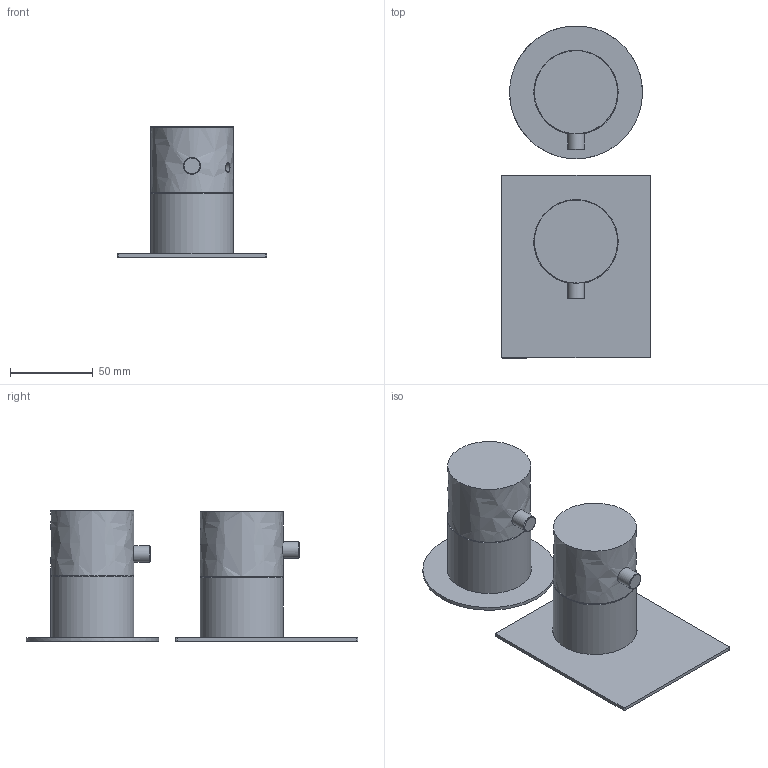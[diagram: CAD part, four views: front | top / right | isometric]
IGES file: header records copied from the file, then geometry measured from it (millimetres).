
Global section: file name: PR47HF202; native system: Autodesk Inventor 2017; preprocessor: unknown; author: CIANI A.; date: 20190211.114800; units: millimetre
Bounding box: 90 x 200 x 78.5 mm (x, y, z)
Volume: 329739.1 mm3; surface area: 59624.2 mm2
Topology: 3 solids, 3 shells, 73 faces, 161 edges, 114 vertices
Faces by surface type: bspline 73
